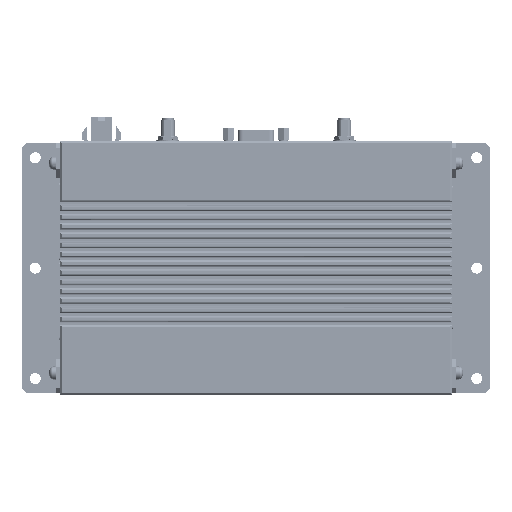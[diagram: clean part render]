
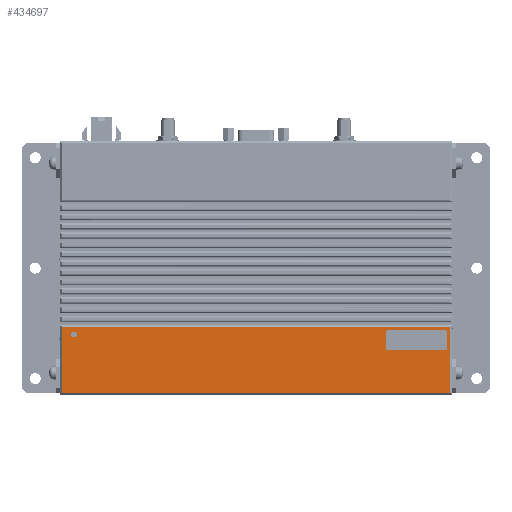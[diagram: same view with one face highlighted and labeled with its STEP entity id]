
A CAD part, front view. The second image highlights one B-rep face of the part: STEP entity #434697.
In plain terms, the highlighted planar face has unit normal (0, -1, 0).
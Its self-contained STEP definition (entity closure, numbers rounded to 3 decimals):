
#1228=FACE_BOUND('',#41746,.T.);
#1229=FACE_BOUND('',#41747,.T.);
#3500=PLANE('',#457114);
#20104=FACE_OUTER_BOUND('',#41745,.T.);
#41745=EDGE_LOOP('',(#286226,#286227,#286228,#286229));
#41746=EDGE_LOOP('',(#286230));
#41747=EDGE_LOOP('',(#286231,#286232,#286233,#286234,#286235,#286236,#286237,
#286238));
#64565=CIRCLE('',#457030,1.311);
#64611=CIRCLE('',#457115,1.);
#64612=CIRCLE('',#457116,1.);
#64613=CIRCLE('',#457117,1.);
#64614=CIRCLE('',#457118,1.);
#75852=LINE('',#606347,#127845);
#75853=LINE('',#606349,#127846);
#75854=LINE('',#606351,#127847);
#75855=LINE('',#606352,#127848);
#75856=LINE('',#606357,#127849);
#75857=LINE('',#606361,#127850);
#75858=LINE('',#606365,#127851);
#75859=LINE('',#606368,#127852);
#127845=VECTOR('',#491052,10.);
#127846=VECTOR('',#491053,10.);
#127847=VECTOR('',#491054,10.);
#127848=VECTOR('',#491055,10.);
#127849=VECTOR('',#491058,10.);
#127850=VECTOR('',#491061,10.);
#127851=VECTOR('',#491064,10.);
#127852=VECTOR('',#491067,10.);
#179665=VERTEX_POINT('',#606190);
#179721=VERTEX_POINT('',#606345);
#179722=VERTEX_POINT('',#606346);
#179723=VERTEX_POINT('',#606348);
#179724=VERTEX_POINT('',#606350);
#179725=VERTEX_POINT('',#606353);
#179726=VERTEX_POINT('',#606354);
#179727=VERTEX_POINT('',#606356);
#179728=VERTEX_POINT('',#606358);
#179729=VERTEX_POINT('',#606360);
#179730=VERTEX_POINT('',#606362);
#179731=VERTEX_POINT('',#606364);
#179732=VERTEX_POINT('',#606366);
#221381=EDGE_CURVE('',#179665,#179665,#64565,.T.);
#221440=EDGE_CURVE('',#179721,#179722,#75852,.T.);
#221441=EDGE_CURVE('',#179723,#179722,#75853,.T.);
#221442=EDGE_CURVE('',#179723,#179724,#75854,.T.);
#221443=EDGE_CURVE('',#179724,#179721,#75855,.T.);
#221444=EDGE_CURVE('',#179725,#179726,#64611,.T.);
#221445=EDGE_CURVE('',#179725,#179727,#75856,.T.);
#221446=EDGE_CURVE('',#179728,#179727,#64612,.T.);
#221447=EDGE_CURVE('',#179728,#179729,#75857,.T.);
#221448=EDGE_CURVE('',#179730,#179729,#64613,.T.);
#221449=EDGE_CURVE('',#179730,#179731,#75858,.T.);
#221450=EDGE_CURVE('',#179732,#179731,#64614,.T.);
#221451=EDGE_CURVE('',#179732,#179726,#75859,.T.);
#286226=ORIENTED_EDGE('',*,*,#221440,.T.);
#286227=ORIENTED_EDGE('',*,*,#221441,.F.);
#286228=ORIENTED_EDGE('',*,*,#221442,.T.);
#286229=ORIENTED_EDGE('',*,*,#221443,.T.);
#286230=ORIENTED_EDGE('',*,*,#221381,.T.);
#286231=ORIENTED_EDGE('',*,*,#221444,.F.);
#286232=ORIENTED_EDGE('',*,*,#221445,.T.);
#286233=ORIENTED_EDGE('',*,*,#221446,.F.);
#286234=ORIENTED_EDGE('',*,*,#221447,.T.);
#286235=ORIENTED_EDGE('',*,*,#221448,.F.);
#286236=ORIENTED_EDGE('',*,*,#221449,.T.);
#286237=ORIENTED_EDGE('',*,*,#221450,.F.);
#286238=ORIENTED_EDGE('',*,*,#221451,.T.);
#434697=ADVANCED_FACE('',(#20104,#1228,#1229),#3500,.T.);
#457030=AXIS2_PLACEMENT_3D('',#606192,#490869,#490870);
#457114=AXIS2_PLACEMENT_3D('',#606344,#491050,#491051);
#457115=AXIS2_PLACEMENT_3D('',#606355,#491056,#491057);
#457116=AXIS2_PLACEMENT_3D('',#606359,#491059,#491060);
#457117=AXIS2_PLACEMENT_3D('',#606363,#491062,#491063);
#457118=AXIS2_PLACEMENT_3D('',#606367,#491065,#491066);
#490869=DIRECTION('center_axis',(0.,1.,0.));
#490870=DIRECTION('ref_axis',(1.,0.,0.));
#491050=DIRECTION('center_axis',(0.,-1.,0.));
#491051=DIRECTION('ref_axis',(0.,0.,-1.));
#491052=DIRECTION('',(0.,0.,1.));
#491053=DIRECTION('',(1.,0.,0.));
#491054=DIRECTION('',(0.,0.,-1.));
#491055=DIRECTION('',(1.,0.,0.));
#491056=DIRECTION('center_axis',(0.,-1.,0.));
#491057=DIRECTION('ref_axis',(0.707,0.,0.707));
#491058=DIRECTION('',(0.,0.,-1.));
#491059=DIRECTION('center_axis',(0.,-1.,0.));
#491060=DIRECTION('ref_axis',(0.707,0.,-0.707));
#491061=DIRECTION('',(-1.,0.,0.));
#491062=DIRECTION('center_axis',(0.,-1.,0.));
#491063=DIRECTION('ref_axis',(-0.707,0.,-0.707));
#491064=DIRECTION('',(0.,0.,1.));
#491065=DIRECTION('center_axis',(0.,-1.,0.));
#491066=DIRECTION('ref_axis',(-0.707,0.,0.707));
#491067=DIRECTION('',(1.,0.,0.));
#606190=CARTESIAN_POINT('',(-83.811,-5.,-30.));
#606192=CARTESIAN_POINT('Origin',(-82.5,-5.,-30.));
#606344=CARTESIAN_POINT('Origin',(0.,-5.,0.));
#606345=CARTESIAN_POINT('',(88.,-5.,-56.5));
#606346=CARTESIAN_POINT('',(88.,-5.,-26.7));
#606347=CARTESIAN_POINT('',(88.,-5.,-28.75));
#606348=CARTESIAN_POINT('',(-88.,-5.,-26.7));
#606349=CARTESIAN_POINT('',(50.,-5.,-26.7));
#606350=CARTESIAN_POINT('',(-88.,-5.,-56.5));
#606351=CARTESIAN_POINT('',(-88.,-5.,-28.75));
#606352=CARTESIAN_POINT('',(50.,-5.,-56.5));
#606353=CARTESIAN_POINT('',(86.666,-5.,-29.135));
#606354=CARTESIAN_POINT('',(85.666,-5.,-28.135));
#606355=CARTESIAN_POINT('Origin',(85.666,-5.,-29.135));
#606356=CARTESIAN_POINT('',(86.666,-5.,-36.135));
#606357=CARTESIAN_POINT('',(86.666,-5.,-37.135));
#606358=CARTESIAN_POINT('',(85.666,-5.,-37.135));
#606359=CARTESIAN_POINT('Origin',(85.666,-5.,-36.135));
#606360=CARTESIAN_POINT('',(59.666,-5.,-37.135));
#606361=CARTESIAN_POINT('',(58.666,-5.,-37.135));
#606362=CARTESIAN_POINT('',(58.666,-5.,-36.135));
#606363=CARTESIAN_POINT('Origin',(59.666,-5.,-36.135));
#606364=CARTESIAN_POINT('',(58.666,-5.,-29.135));
#606365=CARTESIAN_POINT('',(58.666,-5.,-28.135));
#606366=CARTESIAN_POINT('',(59.666,-5.,-28.135));
#606367=CARTESIAN_POINT('Origin',(59.666,-5.,-29.135));
#606368=CARTESIAN_POINT('',(86.666,-5.,-28.135));
